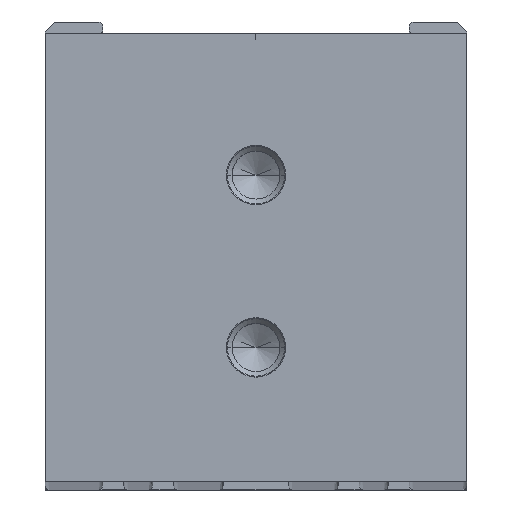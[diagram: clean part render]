
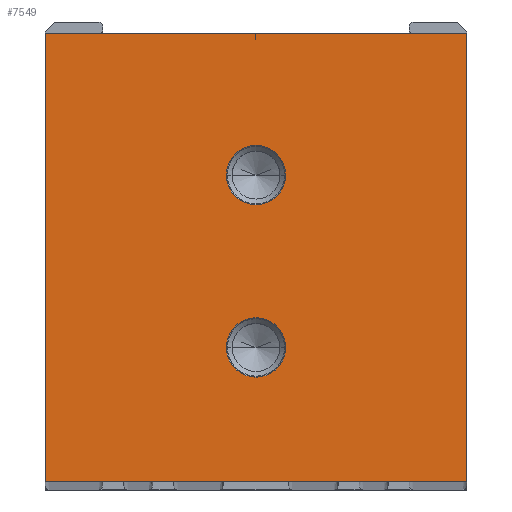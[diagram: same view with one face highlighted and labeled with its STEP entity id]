
A CAD part, top view. The second image highlights one B-rep face of the part: STEP entity #7549.
In plain terms, the highlighted planar face has unit normal (0, 0, 1).
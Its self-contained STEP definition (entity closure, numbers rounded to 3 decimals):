
#2637=DIRECTION('',(-1.,0.,0.));
#2638=VECTOR('',#2637,22.);
#2639=CARTESIAN_POINT('',(11.,11.402,121.));
#2640=LINE('',#2639,#2638);
#2641=DIRECTION('',(0.,1.,0.));
#2642=VECTOR('',#2641,23.402);
#2643=CARTESIAN_POINT('',(11.,-11.999,121.));
#2644=LINE('',#2643,#2642);
#2645=DIRECTION('',(1.,0.,0.));
#2646=VECTOR('',#2645,22.);
#2647=CARTESIAN_POINT('',(-11.,-12.007,121.));
#2648=LINE('',#2647,#2646);
#2649=DIRECTION('',(0.,-1.,0.));
#2650=VECTOR('',#2649,23.409);
#2651=CARTESIAN_POINT('',(-11.,11.402,121.));
#2652=LINE('',#2651,#2650);
#2653=CARTESIAN_POINT('',(0.,-4.996,121.));
#2654=DIRECTION('',(0.,0.,-1.));
#2655=DIRECTION('',(-1.,0.,0.));
#2656=AXIS2_PLACEMENT_3D('',#2653,#2654,#2655);
#2658=CARTESIAN_POINT('',(0.,-4.996,121.));
#2659=DIRECTION('',(0.,0.,-1.));
#2660=DIRECTION('',(1.,0.,0.));
#2661=AXIS2_PLACEMENT_3D('',#2658,#2659,#2660);
#2663=CARTESIAN_POINT('',(0.,4.004,121.));
#2664=DIRECTION('',(0.,0.,-1.));
#2665=DIRECTION('',(-1.,0.,0.));
#2666=AXIS2_PLACEMENT_3D('',#2663,#2664,#2665);
#2668=CARTESIAN_POINT('',(0.,4.004,121.));
#2669=DIRECTION('',(0.,0.,-1.));
#2670=DIRECTION('',(1.,0.,0.));
#2671=AXIS2_PLACEMENT_3D('',#2668,#2669,#2670);
#3033=CARTESIAN_POINT('',(-11.,11.402,121.));
#3034=CARTESIAN_POINT('',(-11.,-12.007,121.));
#3035=VERTEX_POINT('',#3033);
#3036=VERTEX_POINT('',#3034);
#3037=CARTESIAN_POINT('',(11.,-11.999,121.));
#3038=VERTEX_POINT('',#3037);
#3039=CARTESIAN_POINT('',(11.,11.402,121.));
#3040=VERTEX_POINT('',#3039);
#3831=CARTESIAN_POINT('',(-1.55,-4.996,
121.));
#3832=CARTESIAN_POINT('',(1.55,-4.996,121.));
#3833=VERTEX_POINT('',#3831);
#3834=VERTEX_POINT('',#3832);
#3839=CARTESIAN_POINT('',(-1.55,4.004,121.));
#3840=CARTESIAN_POINT('',(1.55,4.004,121.));
#3841=VERTEX_POINT('',#3839);
#3842=VERTEX_POINT('',#3840);
#7526=CARTESIAN_POINT('',(0.,0.,121.));
#7527=DIRECTION('',(0.,0.,1.));
#7528=DIRECTION('',(1.,0.,0.));
#7529=AXIS2_PLACEMENT_3D('',#7526,#7527,#7528);
#7530=PLANE('',#7529);
#7531=ORIENTED_EDGE('',*,*,#3914,.F.);
#7532=ORIENTED_EDGE('',*,*,#4009,.F.);
#7533=ORIENTED_EDGE('',*,*,#4889,.F.);
#7534=ORIENTED_EDGE('',*,*,#4162,.F.);
#7535=EDGE_LOOP('',(#7531,#7532,#7533,#7534));
#7536=FACE_OUTER_BOUND('',#7535,.F.);
#7538=ORIENTED_EDGE('',*,*,#7537,.F.);
#7540=ORIENTED_EDGE('',*,*,#7539,.F.);
#7541=EDGE_LOOP('',(#7538,#7540));
#7542=FACE_BOUND('',#7541,.F.);
#7544=ORIENTED_EDGE('',*,*,#7543,.F.);
#7546=ORIENTED_EDGE('',*,*,#7545,.F.);
#7547=EDGE_LOOP('',(#7544,#7546));
#7548=FACE_BOUND('',#7547,.F.);
#2657=CIRCLE('',#2656,1.55);
#2662=CIRCLE('',#2661,1.55);
#2667=CIRCLE('',#2666,1.55);
#2672=CIRCLE('',#2671,1.55);
#3914=EDGE_CURVE('',#3040,#3035,#2640,.T.);
#4009=EDGE_CURVE('',#3038,#3040,#2644,.T.);
#4162=EDGE_CURVE('',#3035,#3036,#2652,.T.);
#4889=EDGE_CURVE('',#3036,#3038,#2648,.T.);
#7537=EDGE_CURVE('',#3833,#3834,#2657,.T.);
#7539=EDGE_CURVE('',#3834,#3833,#2662,.T.);
#7543=EDGE_CURVE('',#3841,#3842,#2667,.T.);
#7545=EDGE_CURVE('',#3842,#3841,#2672,.T.);
#7549=ADVANCED_FACE('',(#7536,#7542,#7548),#7530,.T.);
